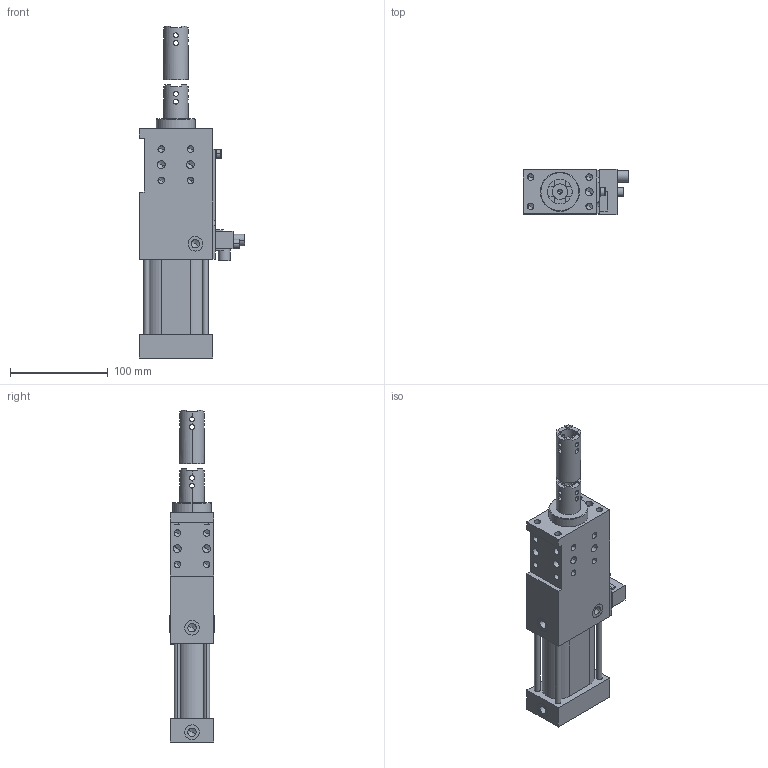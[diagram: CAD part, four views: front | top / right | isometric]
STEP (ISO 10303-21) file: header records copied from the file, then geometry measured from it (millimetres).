
FILE_DESCRIPTION(('CATIA V5 STEP Exchange'),'2;1');
FILE_NAME('G:\Konstruktion\Modelle\UPLOAD\SZK_40_1_BR3_T12_TUENKERS.stp','2016-10-17T10:33:56+00:00',('none'),('none'),'CATIA Version 5 Release 19 SP 9 (IN-10)','CATIA V5 STEP AP214','none');
FILE_SCHEMA(('AUTOMOTIVE_DESIGN { 1 0 10303 214 1 1 1 1 }'));
Length unit declared in the file: millimetre
Products named in the file (1): SZK_40_1_BR3_T12_TUENKERS
Bounding box: 108 x 47 x 340 mm (x, y, z)
Volume: 725641.6 mm3; surface area: 89955.9 mm2
Topology: 2 solids, 2 shells, 289 faces, 792 edges, 483 vertices
Faces by surface type: cylinder 126, plane 101, cone 58, torus 4
Entity records: 10016 total; most frequent: CARTESIAN_POINT 2203, ORIENTED_EDGE 1476, DIRECTION 970, EDGE_CURVE 738, VERTEX_POINT 483, AXIS2_PLACEMENT_3D 412, VECTOR 388, LINE 388
